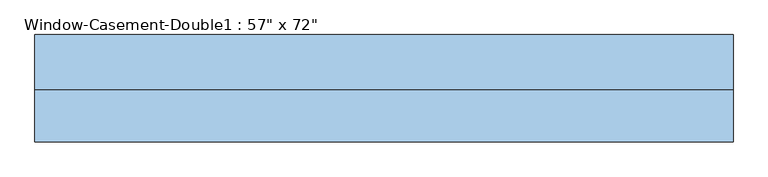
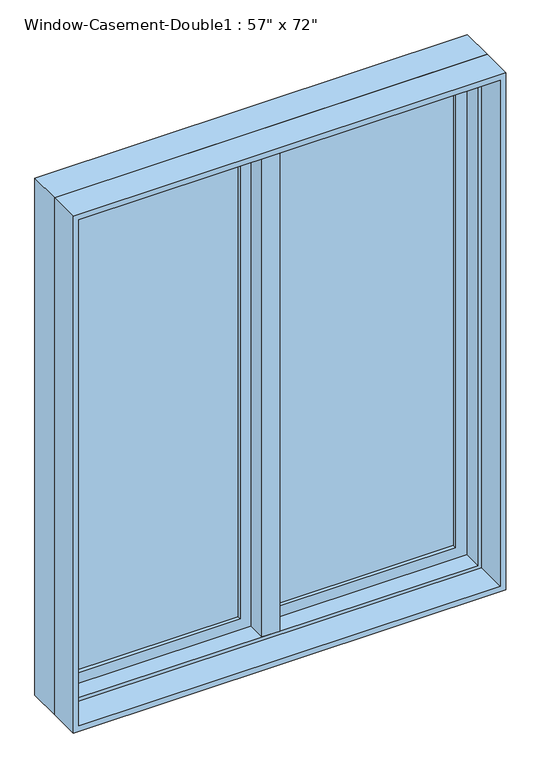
"""IFC4 building model written with IfcOpenShell, lengths in millimetres: window geometry."""

from ifc_helpers import new_model, si_unit, frame, origin, place, context, project, spatial, polyline, outline, extrude, faceted_brep, source, transform, mapped, element, save


def window_c580ef63(model_context):
    return source(origin(), model_context, "Body", "SolidModel", [
        faceted_brep([(9.525, 120.65, 2730.5), (-9.525, 120.65, 2730.5), (-9.525, 69.85, 2730.5), (9.525, 69.85, 2730.5), (9.525, 120.65, 927.1), (9.525, 69.85, 927.1), (-9.525, 69.85, 927.1), (-9.525, 120.65, 927.1), (-9.525, 69.85, 946.15), (-9.525, 69.85, 2711.45), (-30.1625, 69.85, 946.15), (-30.1625, 69.85, 2711.45), (-30.1625, 6.35, 946.15), (-30.1625, 6.35, 2711.45), (30.1625, 6.35, 946.15), (30.1625, 6.35, 2711.45), (30.1625, 69.85, 946.15), (30.1625, 69.85, 2711.45), (9.525, 69.85, 946.15), (9.525, 69.85, 2711.45)], [[[0, 1, 2, 3]], [[4, 5, 6, 7]], [[1, 0, 4, 7]], [[2, 1, 7, 6, 8, 9]], [[9, 8, 10, 11]], [[11, 10, 12, 13]], [[13, 12, 14, 15]], [[15, 14, 16, 17]], [[17, 16, 18, 19]], [[0, 3, 19, 18, 5, 4]], [[18, 8, 6, 5]], [[9, 19, 3, 2]], [[8, 18, 16, 14, 12, 10]], [[19, 9, 11, 13, 15, 17]]]),
        extrude(outline(polyline([(-66.675, 101.6), (-66.675, 95.25), (-654.05, 95.25), (-654.05, 101.6), (-66.675, 101.6)])), frame((0.0, 0.0, 984.25), z_axis=(0.0, 0.0, 1.0), x_axis=(1.0, 0.0, 0.0)), (0.0, 0.0, 1.0), 1689.1),
        extrude(outline(polyline([(-654.05, 82.55), (-654.05, 88.9), (-66.675, 88.9), (-66.675, 82.55), (-654.05, 82.55)])), frame((0.0, 0.0, 984.25), z_axis=(0.0, 0.0, 1.0), x_axis=(1.0, 0.0, 0.0)), (0.0, 0.0, 1.0), 1689.1),
        extrude(outline(polyline([(654.05, 101.6), (654.05, 95.25), (66.675, 95.25), (66.675, 101.6), (654.05, 101.6)])), frame((0.0, 0.0, 984.25), z_axis=(0.0, 0.0, 1.0), x_axis=(1.0, 0.0, 0.0)), (0.0, 0.0, 1.0), 1689.1),
        extrude(outline(polyline([(66.675, 82.55), (66.675, 88.9), (654.05, 88.9), (654.05, 82.55), (66.675, 82.55)])), frame((0.0, 0.0, 984.25), z_axis=(0.0, 0.0, 1.0), x_axis=(1.0, 0.0, 0.0)), (0.0, 0.0, 1.0), 1689.1),
        extrude(outline(polyline([(2730.5, -711.2), (927.1, -711.2), (927.1, -9.525), (2730.5, -9.525), (2730.5, -711.2)]), holes=[polyline([(2673.35, -66.675), (984.25, -66.675), (984.25, -654.05), (2673.35, -654.05), (2673.35, -66.675)])]), frame((0.0, 69.85, 0.0), z_axis=(0.0, 1.0, 0.0), x_axis=(0.0, 0.0, 1.0)), (0.0, 0.0, 1.0), 44.45),
        extrude(outline(polyline([(927.1, 711.2), (2730.5, 711.2), (2730.5, 9.525), (927.1, 9.525), (927.1, 711.2)]), holes=[polyline([(984.25, 66.675), (2673.35, 66.675), (2673.35, 654.05), (984.25, 654.05), (984.25, 66.675)])]), frame((0.0, 69.85, 0.0), z_axis=(0.0, 1.0, 0.0), x_axis=(0.0, 0.0, 1.0)), (0.0, 0.0, 1.0), 44.45),
        extrude(outline(polyline([(2743.2, -723.9), (914.4, -723.9), (914.4, 723.9), (2743.2, 723.9), (2743.2, -723.9)]), holes=[polyline([(2724.15, 704.85), (933.45, 704.85), (933.45, -704.85), (2724.15, -704.85), (2724.15, 704.85)])]), frame((0.0, -101.6, 0.0), z_axis=(0.0, 1.0, 0.0), x_axis=(0.0, 0.0, 1.0)), (0.0, 0.0, 1.0), 107.95),
        faceted_brep([(692.15, 69.85, 2711.45), (692.15, 6.35, 2711.45), (-692.15, 6.35, 2711.45), (-692.15, 69.85, 2711.45), (711.2, 120.65, 2730.5), (711.2, 69.85, 2730.5), (-711.2, 69.85, 2730.5), (-711.2, 120.65, 2730.5), (723.9, 6.35, 2743.2), (723.9, 120.65, 2743.2), (-723.9, 120.65, 2743.2), (-723.9, 6.35, 2743.2), (-692.15, 6.35, 946.15), (-692.15, 69.85, 946.15), (-711.2, 69.85, 927.1), (-711.2, 120.65, 927.1), (-723.9, 120.65, 914.4), (-723.9, 6.35, 914.4), (692.15, 6.35, 946.15), (692.15, 69.85, 946.15), (711.2, 69.85, 927.1), (711.2, 120.65, 927.1), (723.9, 120.65, 914.4), (723.9, 6.35, 914.4)], [[[0, 1, 2, 3]], [[4, 5, 6, 7]], [[8, 9, 10, 11]], [[3, 2, 12, 13]], [[7, 6, 14, 15]], [[11, 10, 16, 17]], [[13, 12, 18, 19]], [[15, 14, 20, 21]], [[17, 16, 22, 23]], [[11, 17, 23, 8], [1, 18, 12, 2]], [[19, 18, 1, 0]], [[5, 20, 14, 6], [3, 13, 19, 0]], [[21, 20, 5, 4]], [[23, 22, 9, 8]], [[9, 22, 16, 10], [7, 15, 21, 4]]]),
    ])


if __name__ == "__main__":
    model = new_model("IFC4")
    model_context = context("Model", 3, world=origin())
    ifc_project = project(units=[si_unit("LENGTHUNIT", "METRE", prefix="MILLI")], contexts=[model_context])
    site = spatial("IfcSite", under=ifc_project)
    building = spatial("IfcBuilding", under=site)
    placement = place(None, origin())
    window_shape = window_c580ef63(model_context)
    element("IfcWindow", 1, ObjectType="Window-Casement-Double1 : 57\" x 72\"", at=placement, inside=building, context=model_context, shape_type="MappedRepresentation", body=[
        mapped(window_shape, transform((0.0, 0.0, 0.0), x_axis=(1.0, 0.0, 0.0), y_axis=(0.0, 1.0, 0.0), z_axis=(0.0, 0.0, 1.0))),
    ])
    save(model, "model.ifc")
